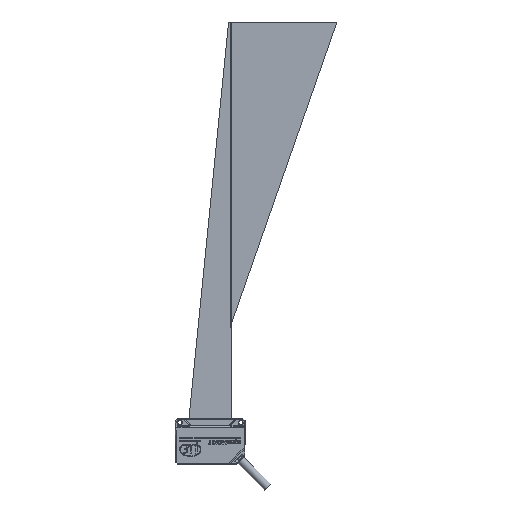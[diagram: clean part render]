
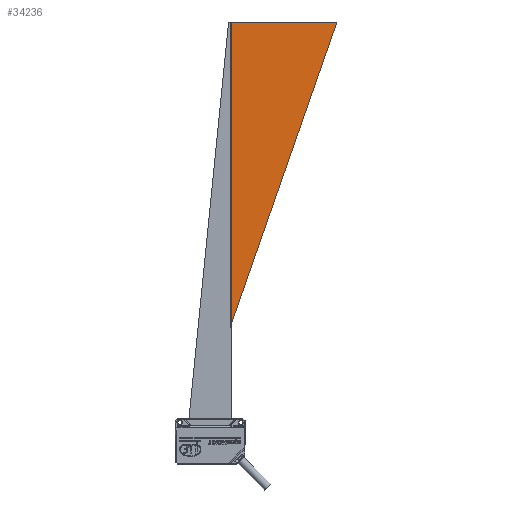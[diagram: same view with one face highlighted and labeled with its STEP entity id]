
A CAD part, front view. The second image highlights one B-rep face of the part: STEP entity #34236.
In plain terms, the highlighted planar face has unit normal (0, -1, 0).
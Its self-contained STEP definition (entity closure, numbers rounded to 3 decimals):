
#3293 = CARTESIAN_POINT ( 'NONE',  ( 13., -1.5, 65. ) ) ;
#3951 = DIRECTION ( 'NONE',  ( 0., 0., 1. ) ) ;
#4413 = PLANE ( 'NONE',  #38218 ) ;
#5683 = CARTESIAN_POINT ( 'NONE',  ( 13., -1.5, 265.027 ) ) ;
#5796 = CARTESIAN_POINT ( 'NONE',  ( 83., -1.5, 265.027 ) ) ;
#9628 = DIRECTION ( 'NONE',  ( 1., 0., 0. ) ) ;
#12440 = FACE_OUTER_BOUND ( 'NONE', #19625, .T. ) ;
#14411 = CARTESIAN_POINT ( 'NONE',  ( 13., -1.5, 65. ) ) ;
#14680 = VECTOR ( 'NONE', #9628, 1000. ) ;
#19625 = EDGE_LOOP ( 'NONE', ( #24391, #30225, #28935 ) ) ;
#23648 = EDGE_CURVE ( 'NONE', #27461, #25158, #26823, .T. ) ;
#24310 = LINE ( 'NONE', #45706, #14680 ) ;
#24391 = ORIENTED_EDGE ( 'NONE', *, *, #47661, .F. ) ;
#25158 = VERTEX_POINT ( 'NONE', #14411 ) ;
#25742 = EDGE_CURVE ( 'NONE', #29486, #27461, #24310, .T. ) ;
#26823 = LINE ( 'NONE', #5796, #52653 ) ;
#27461 = VERTEX_POINT ( 'NONE', #55190 ) ;
#28935 = ORIENTED_EDGE ( 'NONE', *, *, #25742, .F. ) ;
#29486 = VERTEX_POINT ( 'NONE', #5683 ) ;
#29637 = DIRECTION ( 'NONE',  ( 0., 1., 0. ) ) ;
#30225 = ORIENTED_EDGE ( 'NONE', *, *, #23648, .F. ) ;
#34236 = ADVANCED_FACE ( 'NONE', ( #12440 ), #4413, .F. ) ;
#38068 = LINE ( 'NONE', #3293, #42144 ) ;
#38218 = AXIS2_PLACEMENT_3D ( 'NONE', #55850, #29637, #3951 ) ;
#42144 = VECTOR ( 'NONE', #59472, 1000. ) ;
#45706 = CARTESIAN_POINT ( 'NONE',  ( 13., -1.5, 265.027 ) ) ;
#47661 = EDGE_CURVE ( 'NONE', #25158, #29486, #38068, .T. ) ;
#52254 = DIRECTION ( 'NONE',  ( -0.33, 0., -0.944 ) ) ;
#52653 = VECTOR ( 'NONE', #52254, 1000. ) ;
#55190 = CARTESIAN_POINT ( 'NONE',  ( 83., -1.5, 265.027 ) ) ;
#55850 = CARTESIAN_POINT ( 'NONE',  ( 0., -1.5, 0. ) ) ;
#59472 = DIRECTION ( 'NONE',  ( 0., 0., 1. ) ) ;
